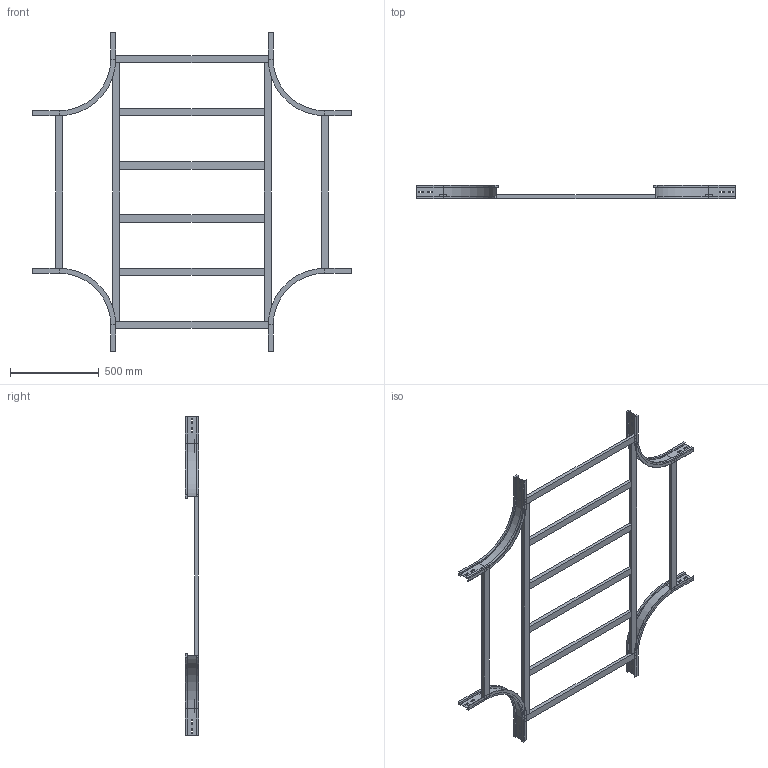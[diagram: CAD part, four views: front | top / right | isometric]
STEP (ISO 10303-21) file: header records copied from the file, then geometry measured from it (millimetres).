
FILE_DESCRIPTION (( 'STEP AP214' ), '1' );
FILE_NAME ('17S3C900.step', '2025-02-21T16:18:49', ( '' ), ( '' ), 'SwSTEP 2.0', 'SolidWorks 2023', '' );
FILE_SCHEMA (( 'AUTOMOTIVE_DESIGN' ));
Length unit declared in the file: millimetre
Products named in the file (5): TRAVERSINO_INTERMEDIO_X_R300+900; LONGH.INTERNO 90°_H75_R300; TRAVERSINO_900; TRAVERSINO_LONG._R300+900; 17S3C900
Assembly tree (14 placements, depth 2):
  17S3C900
    LONGH.INTERNO 90°_H75_R300  x4
    TRAVERSINO_900  x4
    TRAVERSINO_INTERMEDIO_X_R300+900  x4
    TRAVERSINO_LONG._R300+900  x2
Bounding box: 1800 x 75 x 1800 mm (x, y, z)
Volume: 9431621.7 mm3; surface area: 1961528.8 mm2
Topology: 14 solids, 14 shells, 276 faces, 648 edges, 400 vertices
Faces by surface type: plane 252, cylinder 24
Entity records: 2242 total; most frequent: CARTESIAN_POINT 361, DIRECTION 358, ORIENTED_EDGE 336, EDGE_CURVE 168, VECTOR 156, LINE 156, VERTEX_POINT 104, AXIS2_PLACEMENT_3D 101
